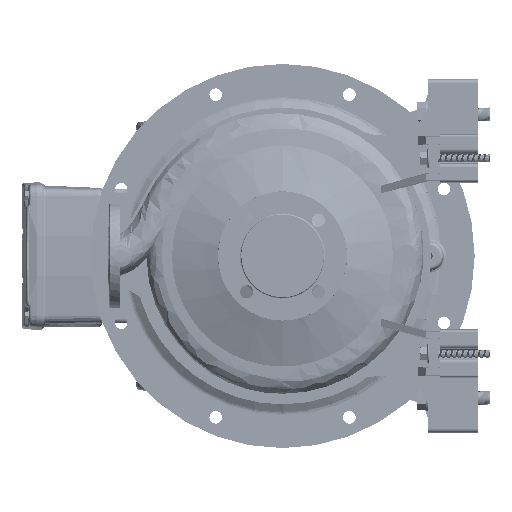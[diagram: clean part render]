
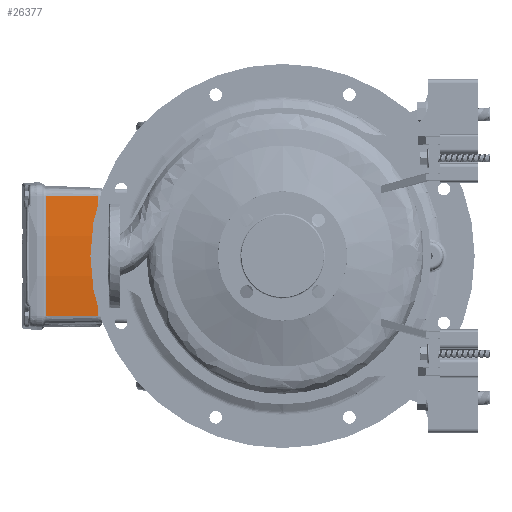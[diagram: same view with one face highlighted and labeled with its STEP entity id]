
A CAD part, left-side view. The second image highlights one B-rep face of the part: STEP entity #26377.
In plain terms, the highlighted conical face has half-angle 1 degrees and reference radius 832 mm.
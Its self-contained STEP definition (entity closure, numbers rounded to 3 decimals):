
#687 = ORIENTED_EDGE ( 'NONE', *, *, #94244, .T. ) ;
#7222 = DIRECTION ( 'NONE',  ( -1., 0., 0. ) ) ;
#14337 = CARTESIAN_POINT ( 'NONE',  ( 0., 351., -712. ) ) ;
#20146 = CONICAL_SURFACE ( 'NONE', #28942, 832., 0.017 ) ;
#26377 = ADVANCED_FACE ( 'NONE', ( #44549 ), #20146, .T. ) ;
#27286 = DIRECTION ( 'NONE',  ( 0.002, 1., 0.017 ) ) ;
#28214 = DIRECTION ( 'NONE',  ( -1., 0., 0. ) ) ;
#28942 = AXIS2_PLACEMENT_3D ( 'NONE', #14337, #28976, #84928 ) ;
#28976 = DIRECTION ( 'NONE',  ( 0., 1., 0. ) ) ;
#30791 = ORIENTED_EDGE ( 'NONE', *, *, #100296, .T. ) ;
#32722 = EDGE_CURVE ( 'NONE', #111587, #148903, #73524, .T. ) ;
#37966 = VERTEX_POINT ( 'NONE', #181267 ) ;
#44000 = EDGE_LOOP ( 'NONE', ( #122354, #687, #54826, #30791 ) ) ;
#44549 = FACE_OUTER_BOUND ( 'NONE', #44000, .T. ) ;
#49281 = CARTESIAN_POINT ( 'NONE',  ( -85.514, 339.235, 115.387 ) ) ;
#54826 = ORIENTED_EDGE ( 'NONE', *, *, #32722, .F. ) ;
#73524 = LINE ( 'NONE', #88206, #81752 ) ;
#81752 = VECTOR ( 'NONE', #157865, 1000. ) ;
#82703 = EDGE_CURVE ( 'NONE', #37966, #102332, #99696, .T. ) ;
#84928 = DIRECTION ( 'NONE',  ( -1., 0., 0. ) ) ;
#84939 = VECTOR ( 'NONE', #27286, 1000. ) ;
#88206 = CARTESIAN_POINT ( 'NONE',  ( -85.535, 351., 115.592 ) ) ;
#94244 = EDGE_CURVE ( 'NONE', #102332, #148903, #150700, .T. ) ;
#95202 = CARTESIAN_POINT ( 'NONE',  ( 0., 339.235, -712. ) ) ;
#99696 = LINE ( 'NONE', #111634, #84939 ) ;
#100296 = EDGE_CURVE ( 'NONE', #111587, #37966, #131018, .T. ) ;
#102332 = VERTEX_POINT ( 'NONE', #152976 ) ;
#111587 = VERTEX_POINT ( 'NONE', #153508 ) ;
#111634 = CARTESIAN_POINT ( 'NONE',  ( 85.535, 351., 115.592 ) ) ;
#122354 = ORIENTED_EDGE ( 'NONE', *, *, #82703, .T. ) ;
#123607 = DIRECTION ( 'NONE',  ( 0., -1., 0. ) ) ;
#124387 = AXIS2_PLACEMENT_3D ( 'NONE', #95202, #123607, #28214 ) ;
#131018 = CIRCLE ( 'NONE', #169104, 830.479 ) ;
#132824 = CARTESIAN_POINT ( 'NONE',  ( 0., 263.878, -712. ) ) ;
#148903 = VERTEX_POINT ( 'NONE', #49281 ) ;
#150700 = CIRCLE ( 'NONE', #124387, 831.795 ) ;
#152976 = CARTESIAN_POINT ( 'NONE',  ( 85.514, 339.235, 115.387 ) ) ;
#153508 = CARTESIAN_POINT ( 'NONE',  ( -85.378, 263.878, 114.079 ) ) ;
#157865 = DIRECTION ( 'NONE',  ( -0.002, 1., 0.017 ) ) ;
#169104 = AXIS2_PLACEMENT_3D ( 'NONE', #132824, #175908, #7222 ) ;
#175908 = DIRECTION ( 'NONE',  ( 0., 1., 0. ) ) ;
#181267 = CARTESIAN_POINT ( 'NONE',  ( 85.378, 263.878, 114.079 ) ) ;
